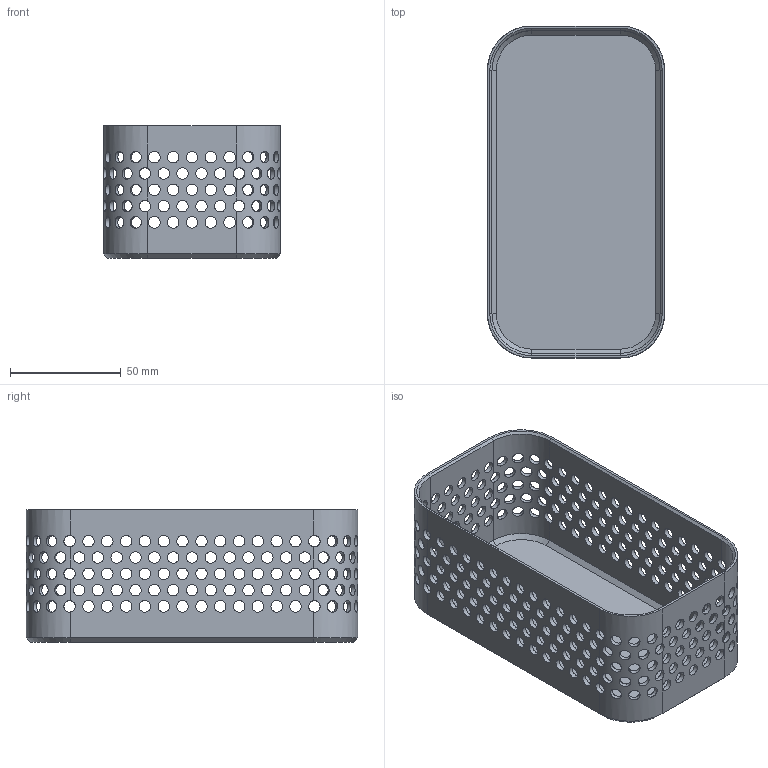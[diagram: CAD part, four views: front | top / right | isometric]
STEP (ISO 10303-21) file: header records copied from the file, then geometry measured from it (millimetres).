
FILE_DESCRIPTION(/* description */ (''),/* implementation_level */ '2;1');
FILE_NAME(/* name */ 'Box 15x8x6.step',/* time_stamp */ '2023-12-22T12:06:05+01:00',/* author */ (''),/* organization */ (''),/* preprocessor_version */ 'ST-DEVELOPER v20',/* originating_system */ 'Autodesk Translation Framework v12.14.0.127',/* authorisation */ '');
FILE_SCHEMA (('AUTOMOTIVE_DESIGN { 1 0 10303 214 3 1 1 }'));
Length unit declared in the file: millimetre
Products named in the file (1): Box 2
Bounding box: 80 x 150 x 60 mm (x, y, z)
Volume: 61103 mm3; surface area: 69133.1 mm2
Topology: 1 solids, 1 shells, 293 faces, 1286 edges, 956 vertices
Faces by surface type: cylinder 258, plane 23, cone 12
Full cylindrical faces by diameter (mm): 5.2 x250
Entity records: 18860 total; most frequent: CARTESIAN_POINT 7740, ORIENTED_EDGE 2572, DIRECTION 1802, EDGE_CURVE 1286, VERTEX_POINT 956, EDGE_LOOP 754, AXIS2_PLACEMENT_3D 722, B_SPLINE_CURVE_WITH_KNOTS 500
